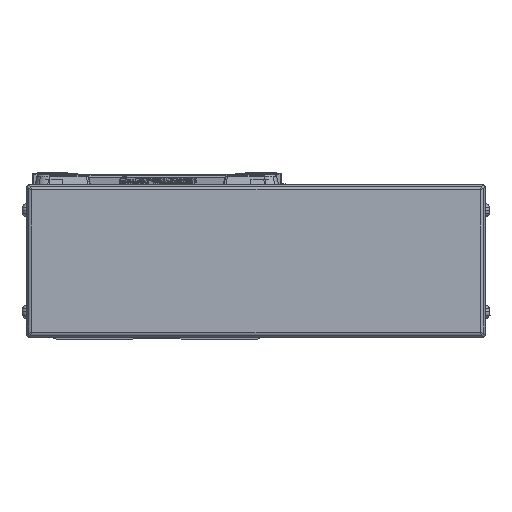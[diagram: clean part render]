
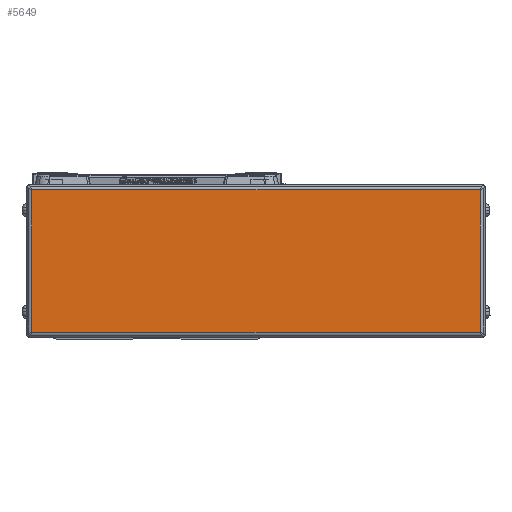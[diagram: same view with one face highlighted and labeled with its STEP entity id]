
A CAD part, left-side view. The second image highlights one B-rep face of the part: STEP entity #5649.
In plain terms, the highlighted planar face has unit normal (-1, 0, 0).
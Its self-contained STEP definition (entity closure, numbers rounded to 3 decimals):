
#5649=ADVANCED_FACE('',(#12177),#12178,.T.);
#12177=FACE_OUTER_BOUND('',#20263,.T.);
#12178=PLANE('',#20264);
#20263=EDGE_LOOP('',(#36311,#36312,#36313,#36314));
#20264=AXIS2_PLACEMENT_3D('',#36315,#36316,#36317);
#36311=ORIENTED_EDGE('',*,*,#50658,.F.);
#36312=ORIENTED_EDGE('',*,*,#51882,.F.);
#36313=ORIENTED_EDGE('',*,*,#48685,.F.);
#36314=ORIENTED_EDGE('',*,*,#51883,.F.);
#36315=CARTESIAN_POINT('',(-616.,-39.,0.));
#36316=DIRECTION('',(-1.0,0.,0.));
#36317=DIRECTION('',(0.,0.,1.0));
#48685=EDGE_CURVE('',#59477,#59479,#59480,.T.);
#50658=EDGE_CURVE('',#62460,#62462,#62463,.T.);
#51882=EDGE_CURVE('',#59479,#62460,#64093,.T.);
#51883=EDGE_CURVE('',#62462,#59477,#64094,.T.);
#59477=VERTEX_POINT('',#73876);
#59479=VERTEX_POINT('',#73878);
#59480=LINE('',#73879,#73880);
#62460=VERTEX_POINT('',#78152);
#62462=VERTEX_POINT('',#78154);
#62463=LINE('',#78155,#78156);
#64093=LINE('',#80499,#80500);
#64094=LINE('',#80501,#80502);
#73876=CARTESIAN_POINT('',(-616.,-127.2,-28.));
#73878=CARTESIAN_POINT('',(-616.0,49.2,-28.));
#73879=CARTESIAN_POINT('',(-616.,-39.,-28.));
#73880=VECTOR('',#88313,10.0);
#78152=CARTESIAN_POINT('',(-616.,49.2,28.));
#78154=CARTESIAN_POINT('',(-616.,-127.2,28.));
#78155=CARTESIAN_POINT('',(-616.,-39.,28.));
#78156=VECTOR('',#90836,10.0);
#80499=CARTESIAN_POINT('',(-616.0,49.2,0.));
#80500=VECTOR('',#92235,10.0);
#80501=CARTESIAN_POINT('',(-616.,-127.2,0.));
#80502=VECTOR('',#92236,10.0);
#88313=DIRECTION('',(0.,1.0,0.));
#90836=DIRECTION('',(0.,-1.0,0.));
#92235=DIRECTION('',(0.,0.,1.0));
#92236=DIRECTION('',(0.,0.,-1.0));
